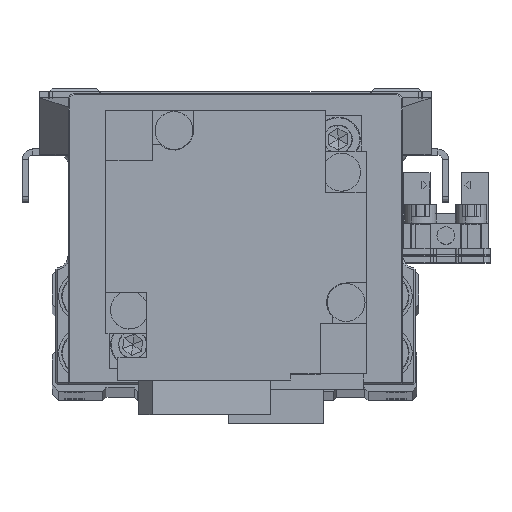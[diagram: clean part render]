
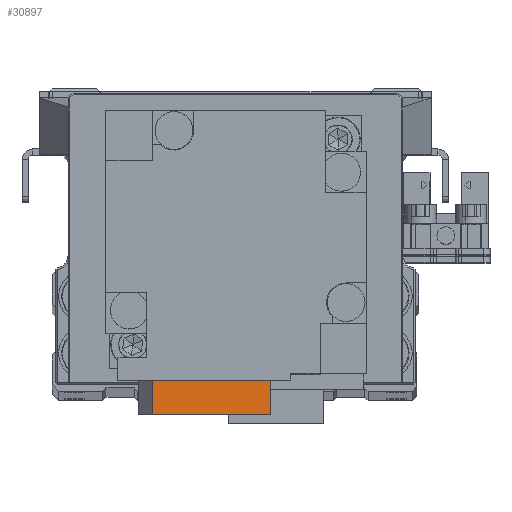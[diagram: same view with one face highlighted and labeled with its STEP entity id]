
A CAD part, top view. The second image highlights one B-rep face of the part: STEP entity #30897.
In plain terms, the highlighted planar face has unit normal (0.156, 0, 0.988) as drawn and (-0.156, 0, -0.988) by its records, which use the part's own axes.
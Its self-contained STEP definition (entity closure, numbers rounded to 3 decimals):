
#3113 = ORIENTED_EDGE ( 'NONE', *, *, #19026, .F. ) ;
#3332 = CARTESIAN_POINT ( 'NONE',  ( -5.583, -24.75, -76.124 ) ) ;
#4354 = CARTESIAN_POINT ( 'NONE',  ( 3.8, -27.5, -77.61 ) ) ;
#4634 = VECTOR ( 'NONE', #16111, 1000. ) ;
#4645 = LINE ( 'NONE', #17420, #7106 ) ;
#4667 = CARTESIAN_POINT ( 'NONE',  ( 3.8, -24.75, -77.61 ) ) ;
#7106 = VECTOR ( 'NONE', #30182, 1000. ) ;
#9970 = EDGE_LOOP ( 'NONE', ( #3113, #33336, #17571, #20523 ) ) ;
#11484 = CARTESIAN_POINT ( 'NONE',  ( 13.183, -22., -79.096 ) ) ;
#12068 = VECTOR ( 'NONE', #17122, 1000. ) ;
#12202 = LINE ( 'NONE', #24952, #39309 ) ;
#12570 = EDGE_CURVE ( 'NONE', #25272, #32666, #32012, .T. ) ;
#12595 = CARTESIAN_POINT ( 'NONE',  ( 13.183, -27.5, -79.096 ) ) ;
#16111 = DIRECTION ( 'NONE',  ( 0., -1., 0. ) ) ;
#17122 = DIRECTION ( 'NONE',  ( 0.988, 0., -0.156 ) ) ;
#17420 = CARTESIAN_POINT ( 'NONE',  ( -5.583, -22., -76.124 ) ) ;
#17434 = DIRECTION ( 'NONE',  ( 0.156, 0., 0.988 ) ) ;
#17464 = AXIS2_PLACEMENT_3D ( 'NONE', #4667, #17434, #30199 ) ;
#17571 = ORIENTED_EDGE ( 'NONE', *, *, #12570, .F. ) ;
#19026 = EDGE_CURVE ( 'NONE', #31091, #21351, #12202, .T. ) ;
#20523 = ORIENTED_EDGE ( 'NONE', *, *, #28301, .T. ) ;
#20571 = FACE_OUTER_BOUND ( 'NONE', #9970, .T. ) ;
#21351 = VERTEX_POINT ( 'NONE', #11484 ) ;
#24952 = CARTESIAN_POINT ( 'NONE',  ( 13.183, -24.75, -79.096 ) ) ;
#25272 = VERTEX_POINT ( 'NONE', #37795 ) ;
#28301 = EDGE_CURVE ( 'NONE', #25272, #21351, #4645, .T. ) ;
#30182 = DIRECTION ( 'NONE',  ( 0.988, 0., -0.156 ) ) ;
#30199 = DIRECTION ( 'NONE',  ( 0.988, 0., -0.156 ) ) ;
#30501 = EDGE_CURVE ( 'NONE', #32666, #31091, #33026, .T. ) ;
#30897 = ADVANCED_FACE ( 'NONE', ( #20571 ), #33342, .F. ) ;
#31091 = VERTEX_POINT ( 'NONE', #12595 ) ;
#32012 = LINE ( 'NONE', #3332, #4634 ) ;
#32666 = VERTEX_POINT ( 'NONE', #41242 ) ;
#33026 = LINE ( 'NONE', #4354, #12068 ) ;
#33336 = ORIENTED_EDGE ( 'NONE', *, *, #30501, .F. ) ;
#33342 = PLANE ( 'NONE',  #17464 ) ;
#37721 = DIRECTION ( 'NONE',  ( 0., 1., 0. ) ) ;
#37795 = CARTESIAN_POINT ( 'NONE',  ( -5.583, -22., -76.124 ) ) ;
#39309 = VECTOR ( 'NONE', #37721, 1000. ) ;
#41242 = CARTESIAN_POINT ( 'NONE',  ( -5.583, -27.5, -76.124 ) ) ;
